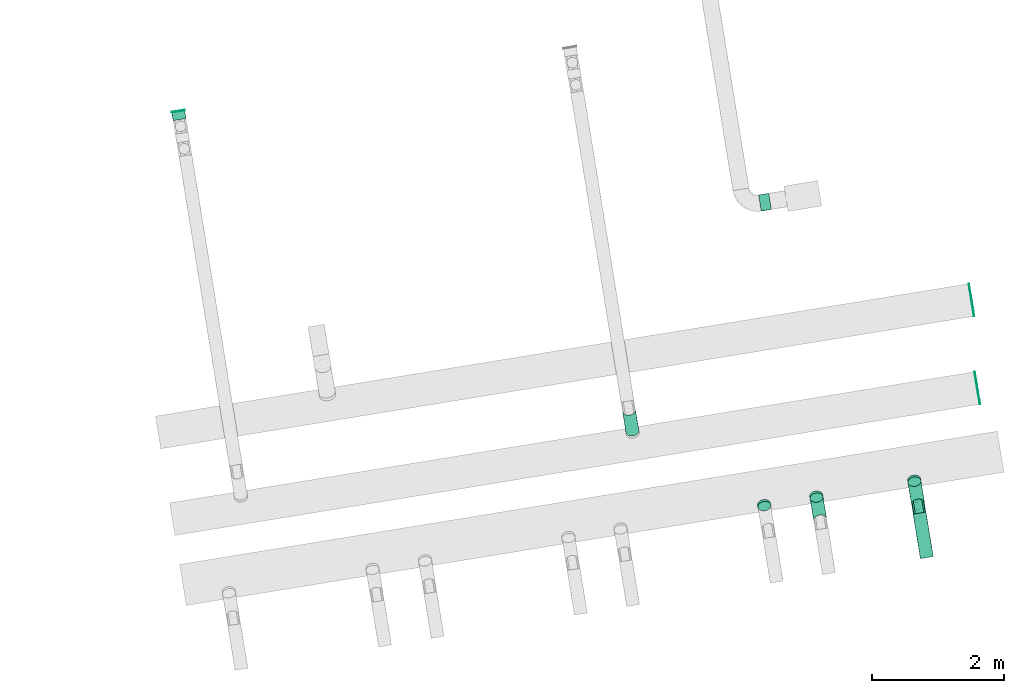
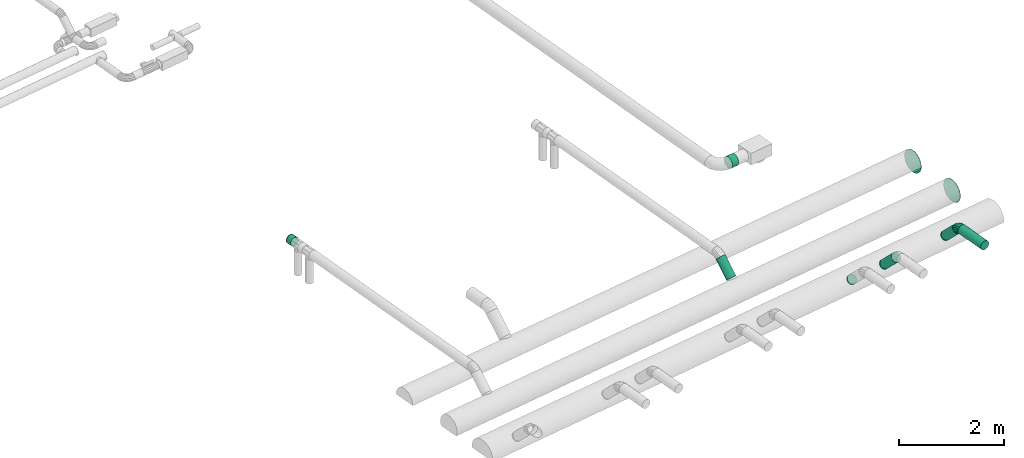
# One storey, part 5 of 19: 7 flow fittings, 6 flow segments.
"""IFC2X3 building model written with IfcOpenShell, lengths in millimetres."""

from ifc_helpers import new_model, entity, si_unit, converted_unit, derived_unit, direction, frame, frame_2d, origin, origin_with_axes, origin_2d_with_axis, place, context, subcontext, project, spatial, circle, extrude, faceted_brep, source, transform, mapped, material, type_object, element, save


model = new_model("IFC2X3")

# Units and contexts
model_context = context("Model", 3, precision=0.01, world=origin(), true_north=direction((6.12323399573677e-17, 1.0)))
plan_context = context("Plan", 3, precision=1e-05, world=origin_with_axes())
body_context = subcontext(model_context, "Body", "Model", "MODEL_VIEW")
ifc_project = project(units=[converted_unit("PLANEANGLEUNIT", "DEGREE", entity("IfcPositiveLengthMeasure", 0.0174532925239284), si_unit("PLANEANGLEUNIT", "RADIAN"), dimensions=[0, 0, 0, 0, 0, 0, 0]), si_unit("AREAUNIT", "SQUARE_METRE"), si_unit("LENGTHUNIT", "METRE", prefix="MILLI"), si_unit("MASSUNIT", "GRAM", prefix="KILO"), si_unit("POWERUNIT", "WATT"), si_unit("PRESSUREUNIT", "PASCAL", prefix="KILO"), si_unit("FORCEUNIT", "NEWTON", prefix="KILO"), si_unit("ELECTRICVOLTAGEUNIT", "VOLT"), si_unit("ELECTRICCURRENTUNIT", "AMPERE"), si_unit("THERMODYNAMICTEMPERATUREUNIT", "DEGREE_CELSIUS"), si_unit("TIMEUNIT", "SECOND"), si_unit("VOLUMEUNIT", "CUBIC_METRE"), derived_unit("LINEARVELOCITYUNIT", [(si_unit("LENGTHUNIT", "METRE"), 1), (si_unit("TIMEUNIT", "SECOND"), -1)]), derived_unit("VOLUMETRICFLOWRATEUNIT", [(si_unit("VOLUMEUNIT", "CUBIC_METRE"), 1), (si_unit("TIMEUNIT", "SECOND"), -1)]), derived_unit("THERMALTRANSMITTANCEUNIT", [(si_unit("POWERUNIT", "WATT"), 1), (si_unit("THERMODYNAMICTEMPERATUREUNIT", "KELVIN"), -1), (si_unit("AREAUNIT", "SQUARE_METRE"), -1)]), derived_unit("SOUNDPRESSUREUNIT", [(si_unit("PRESSUREUNIT", "PASCAL"), 1)])], contexts=[model_context, plan_context])

# Site, building, storey
site_placement = place(None, frame((5.09380697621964e-08, 5.80416781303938e-08, 0.0), z_axis=(0.0, 0.0, 1.0), x_axis=(-0.160806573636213, 0.986985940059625, 0.0)))
site = spatial("IfcSite", under=ifc_project, at=site_placement, Name="Default", CompositionType="ELEMENT")
building_placement = place(site_placement, frame((0.0, 0.0, 0.0), z_axis=(0.0, 0.0, 1.0), x_axis=(1.0, -2.77555756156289e-17, 0.0)))
building = spatial("IfcBuilding", under=site, at=building_placement, Name="Bygning (endres i Project Information)", CompositionType="ELEMENT")
storey_placement = place(building_placement, frame((0.0, 0.0, 51360.0000000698), z_axis=(0.0, 0.0, 1.0), x_axis=(1.0, -2.77555756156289e-17, 0.0)))
storey = spatial("IfcBuildingStorey", under=building, at=storey_placement, Name="H01-Nivå D+0,36", CompositionType="ELEMENT", Elevation=51360.0000000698)

# Flow fittings
ifc_material_1 = material(Name="DF_Material1")
duct_fitting_type_1 = type_object("IfcDuctFittingType", Name="Lindab ESU:ESU", PredefinedType="NOTDEFINED", material=ifc_material_1)
shared_shape_1 = source(origin(), body_context, "Body", "SweptSolid", [
    extrude(circle(Radius=100.000000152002, at=frame_2d((-1.7386373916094e-13, -5.59979039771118e-13), x_axis=(1.0, 0.0))), frame((0.0, 0.0, 0.0), z_axis=(1.0, 0.0, 0.0), x_axis=(0.0, 1.0, 0.0)), (0.0, 0.0, 1.0), 10.0000000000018),
])
flow_fitting_1_placement = place(storey_placement, frame((1000575.1737039, -385132.73177938, 3820.00000015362), z_axis=(0.0, 0.0, 1.0), x_axis=(1.0, -2.77555756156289e-17, 0.0)))
element("IfcFlowFitting", 1, at=flow_fitting_1_placement, inside=storey, type_object=duct_fitting_type_1, material=ifc_material_1, Name="Lindab ESU:ESU", ObjectType="Lindab ESU:ESU", context=body_context, shape_type="MappedRepresentation", body=[
    mapped(shared_shape_1, transform((0.0, 0.0, 0.0), scale=1.0)),
])
ifc_material_2 = material(Name="3601.001 Avtrekk")
duct_fitting_type_2 = type_object("IfcDuctFittingType", Name="magicirc_elbow_full_radius_NOR:magicirc_elbow_full_radius_NOR", PredefinedType="NOTDEFINED", material=ifc_material_2)
shared_shape_2 = source(origin(), body_context, "Body", "Brep", [
    faceted_brep([(-24.3156158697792, -94.2355841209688, 0.0), (-25.4921544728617, -88.3207251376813, 34.2020143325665), (-82.8427124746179, -93.969262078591, 34.2020143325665), (-82.8427124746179, -100.0, 0.0), (-28.8798623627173, -71.2895674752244, 64.2787609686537), (-82.8427124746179, -76.604444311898, 64.2787609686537), (-34.0701319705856, -45.1963201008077, 86.6025403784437), (-82.8427124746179, -50.0, 86.6025403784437), (-40.4369401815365, -13.1882137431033, 98.4807753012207), (-82.842712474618, -17.3648177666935, 98.4807753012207), (-47.2123559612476, 20.8741015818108, 98.4807753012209), (-82.842712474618, 17.3648177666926, 98.4807753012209), (-53.5791641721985, 52.8822079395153, 86.6025403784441), (-82.8427124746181, 50.0, 86.6025403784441), (-58.7694337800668, 78.9754553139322, 64.2787609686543), (-82.8427124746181, 76.6044443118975, 64.2787609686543), (-62.1571416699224, 96.0066129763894, 34.2020143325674), (-82.8427124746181, 93.9692620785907, 34.2020143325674), (-63.3336802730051, 101.921471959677, 0.0), (-82.8427124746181, 100.0, 0.0), (-62.1571416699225, 96.0066129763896, -34.2020143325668), (-82.8427124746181, 93.9692620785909, -34.2020143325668), (-58.7694337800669, 78.9754553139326, -64.2787609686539), (-82.8427124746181, 76.6044443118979, -64.2787609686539), (-53.5791641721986, 52.8822079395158, -86.6025403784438), (-82.8427124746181, 50.0, -86.6025403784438), (-47.2123559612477, 20.8741015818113, -98.4807753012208), (-82.842712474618, 17.3648177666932, -98.4807753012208), (-40.4369401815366, -13.1882137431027, -98.4807753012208), (-82.842712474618, -17.3648177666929, -98.4807753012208), (-34.0701319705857, -45.1963201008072, -86.6025403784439), (-82.8427124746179, -50.0, -86.6025403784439), (-28.8798623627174, -71.289567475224, -64.2787609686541), (-82.8427124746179, -76.6044443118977, -64.2787609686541), (-25.4921544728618, -88.3207251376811, -34.2020143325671), (-82.8427124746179, -93.9692620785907, -34.2020143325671), (31.9623172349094, -77.1638597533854, 0.0), (29.6544537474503, -71.5921844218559, 34.2020143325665), (23.0092256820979, -55.54918470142, 64.2787609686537), (12.828145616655, -30.9698831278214, 86.6025403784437), (0.3392020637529, -0.818906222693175, 98.4807753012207), (-12.9512540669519, 31.267093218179, 98.4807753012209), (-25.440197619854, 61.4180701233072, 86.6025403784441), (-35.621277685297, 85.997371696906, 64.2787609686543), (-42.2665057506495, 102.040371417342, 34.2020143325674), (-44.5743692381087, 107.612046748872, 0.0), (-42.2665057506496, 102.040371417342, -34.2020143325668), (-35.6212776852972, 85.9973716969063, -64.2787609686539), (-25.4401976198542, 61.4180701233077, -86.6025403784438), (-12.9512540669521, 31.2670932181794, -98.4807753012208), (0.339202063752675, -0.818906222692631, -98.4807753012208), (12.8281456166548, -30.9698831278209, -86.6025403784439), (23.0092256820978, -55.5491847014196, -64.2787609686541), (29.6544537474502, -71.5921844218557, -34.2020143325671), (83.8283574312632, -49.4408836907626, 0.0), (80.4778589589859, -44.4265083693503, 34.2020143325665), (70.8304831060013, -29.9881900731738, 64.2787609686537), (56.0498457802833, -7.86740307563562, 86.6025403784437), (37.9187099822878, 19.2677592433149, 98.4807753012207), (18.6239582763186, 48.1443958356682, 98.4807753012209), (0.492822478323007, 75.2795581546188, 86.6025403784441), (-14.2878148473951, 97.4003451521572, 64.2787609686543), (-23.9351907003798, 111.838663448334, 34.2020143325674), (-27.2856891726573, 116.853038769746, 0.0), (-23.9351907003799, 111.838663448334, -34.2020143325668), (-14.2878148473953, 97.4003451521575, -64.2787609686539), (0.492822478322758, 75.2795581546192, -86.6025403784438), (18.6239582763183, 48.1443958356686, -98.4807753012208), (37.9187099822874, 19.2677592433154, -98.4807753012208), (56.049845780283, -7.86740307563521, -86.6025403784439), (70.8304831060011, -29.9881900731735, -64.2787609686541), (80.4778589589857, -44.4265083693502, -34.2020143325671), (129.289321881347, -12.1320343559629, 0.0), (125.02494620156, -7.86765867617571, 34.2020143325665), (112.746165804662, 4.41112172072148, 64.2787609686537), (93.9339828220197, 23.2233047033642, 86.6025403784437), (70.8574241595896, 46.2998633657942, 98.4807753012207), (46.299863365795, 70.8574241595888, 98.4807753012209), (23.2233047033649, 93.9339828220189, 86.6025403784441), (4.41112172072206, 112.746165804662, 64.2787609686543), (-7.86765867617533, 125.024946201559, 34.2020143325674), (-12.1320343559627, 129.289321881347, 0.0), (-7.86765867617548, 125.024946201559, -34.2020143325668), (4.41112172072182, 112.746165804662, -64.2787609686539), (23.2233047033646, 93.9339828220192, -86.6025403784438), (46.2998633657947, 70.8574241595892, -98.4807753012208), (70.8574241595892, 46.2998633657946, -98.4807753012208), (93.9339828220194, 23.2233047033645, -86.6025403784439), (112.746165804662, 4.41112172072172, -64.2787609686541), (125.02494620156, -7.86765867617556, -34.2020143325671)], [[[0, 1, 2, 3]], [[1, 4, 5, 2]], [[4, 6, 7, 5]], [[6, 8, 9, 7]], [[8, 10, 11, 9]], [[10, 12, 13, 11]], [[12, 14, 15, 13]], [[14, 16, 17, 15]], [[16, 18, 19, 17]], [[18, 20, 21, 19]], [[20, 22, 23, 21]], [[22, 24, 25, 23]], [[24, 26, 27, 25]], [[26, 28, 29, 27]], [[28, 30, 31, 29]], [[30, 32, 33, 31]], [[32, 34, 35, 33]], [[34, 0, 3, 35]], [[36, 37, 1, 0]], [[37, 38, 4, 1]], [[38, 39, 6, 4]], [[39, 40, 8, 6]], [[40, 41, 10, 8]], [[41, 42, 12, 10]], [[42, 43, 14, 12]], [[43, 44, 16, 14]], [[44, 45, 18, 16]], [[45, 46, 20, 18]], [[46, 47, 22, 20]], [[47, 48, 24, 22]], [[48, 49, 26, 24]], [[49, 50, 28, 26]], [[50, 51, 30, 28]], [[51, 52, 32, 30]], [[52, 53, 34, 32]], [[53, 36, 0, 34]], [[54, 55, 37, 36]], [[55, 56, 38, 37]], [[56, 57, 39, 38]], [[57, 58, 40, 39]], [[58, 59, 41, 40]], [[59, 60, 42, 41]], [[60, 61, 43, 42]], [[61, 62, 44, 43]], [[62, 63, 45, 44]], [[63, 64, 46, 45]], [[64, 65, 47, 46]], [[65, 66, 48, 47]], [[66, 67, 49, 48]], [[67, 68, 50, 49]], [[68, 69, 51, 50]], [[69, 70, 52, 51]], [[70, 71, 53, 52]], [[71, 54, 36, 53]], [[72, 73, 55, 54]], [[73, 74, 56, 55]], [[74, 75, 57, 56]], [[75, 76, 58, 57]], [[76, 77, 59, 58]], [[77, 78, 60, 59]], [[78, 79, 61, 60]], [[79, 80, 62, 61]], [[80, 81, 63, 62]], [[81, 82, 64, 63]], [[82, 83, 65, 64]], [[83, 84, 66, 65]], [[84, 85, 67, 66]], [[85, 86, 68, 67]], [[86, 87, 69, 68]], [[87, 88, 70, 69]], [[88, 89, 71, 70]], [[89, 72, 54, 71]], [[3, 2, 5, 7, 9, 11, 13, 15, 17, 19, 21, 23, 25, 27, 29, 31, 33, 35]], [[89, 88, 87, 86, 85, 84, 83, 82, 81, 80, 79, 78, 77, 76, 75, 74, 73, 72]]]),
])
flow_fitting_2_placement = place(storey_placement, frame((992862.921338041, -395219.987431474, 3800.0), z_axis=(2.77555756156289e-17, 1.0, 0.0), x_axis=(1.0, -2.77555756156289e-17, 0.0)))
element("IfcFlowFitting", 2, at=flow_fitting_2_placement, inside=storey, type_object=duct_fitting_type_2, material=ifc_material_2, Name="magicirc_elbow_full_radius_NOR:magicirc_elbow_full_radius_NOR", ObjectType="magicirc_elbow_full_radius_NOR:magicirc_elbow_full_radius_NOR", context=body_context, shape_type="MappedRepresentation", body=[
    mapped(shared_shape_2, transform((0.0, 0.0, 0.0), scale=1.0)),
])
ifc_material_3 = material(Name="3601.001 Tilluft")
duct_fitting_type_3 = type_object("IfcDuctFittingType", Name="magicirc_tapoutlet_001:magicirc_tapoutlet_001", PredefinedType="NOTDEFINED", material=ifc_material_3)
shared_shape_3 = source(origin(), body_context, "Body", "Brep", [
    faceted_brep([(-22.3909057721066, -25.8819045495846, -96.5925827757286), (-22.3909057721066, -50.0000000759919, -86.6025405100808), (-22.3909057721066, -70.7106782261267, -70.7106782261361), (-22.3909057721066, -86.6025405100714, -50.0000000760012), (-22.3909057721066, -96.5925827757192, -25.8819045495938), (-22.3909057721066, -100.000000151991, 0.0), (-22.3909057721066, -96.5925827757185, 25.8819045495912), (-22.3909057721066, -86.6025405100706, 50.0000000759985), (-22.3909057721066, -70.7106782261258, 70.7106782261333), (-22.3909057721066, -50.0000000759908, 86.6025405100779), (-22.3909057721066, -25.8819045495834, 96.5925827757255), (-22.3909057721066, 0.0, 100.000000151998), (-22.3909057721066, 25.8819045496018, 96.5925827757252), (-22.3909057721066, 50.0000000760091, 86.6025405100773), (-22.3909057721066, 70.710678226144, 70.7106782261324), (-22.3909057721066, 86.6025405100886, 50.0000000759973), (-22.3909057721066, 96.5925827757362, 25.8819045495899), (-22.3909057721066, 100.00000015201, 0.0), (-22.3909057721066, 96.5925827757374, -25.8819045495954), (-22.3909057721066, 86.6025405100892, -50.0000000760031), (-22.3909057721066, 70.7106782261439, -70.7106782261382), (-22.3909057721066, 50.0000000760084, -86.6025405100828), (-22.3909057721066, 25.8819045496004, -96.5925827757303), (-22.3909057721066, 0.0, -100.000000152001), (0.0, -25.8819045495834, 96.5925827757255), (20.0, -25.8819045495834, 96.5925827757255), (20.0, 0.0, 100.000000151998), (0.0, 0.0, 100.000000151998), (0.0, -50.0000000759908, 86.6025405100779), (20.0, -50.0000000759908, 86.6025405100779), (0.0, -70.7106782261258, 70.7106782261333), (20.0, -70.7106782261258, 70.7106782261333), (0.0, -96.5925827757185, 25.8819045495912), (20.0, -96.5925827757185, 25.8819045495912), (20.0, -86.6025405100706, 50.0000000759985), (0.0, -86.6025405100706, 50.0000000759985), (0.0, -100.000000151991, 0.0), (20.0, -100.000000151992, 0.0), (0.0, -96.5925827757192, -25.8819045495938), (20.0, -96.5925827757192, -25.8819045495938), (0.0, -86.6025405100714, -50.0000000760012), (20.0, -86.6025405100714, -50.0000000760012), (0.0, -70.7106782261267, -70.7106782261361), (20.0, -70.7106782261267, -70.7106782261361), (0.0, 0.0, -100.000000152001), (20.0, 0.0, -100.000000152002), (20.0, -25.8819045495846, -96.5925827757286), (0.0, -25.8819045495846, -96.5925827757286), (20.0, -50.0000000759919, -86.6025405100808), (0.0, -50.0000000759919, -86.6025405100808), (0.0, 25.8819045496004, -96.5925827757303), (20.0, 25.8819045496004, -96.5925827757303), (0.0, 50.0000000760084, -86.6025405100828), (20.0, 50.0000000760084, -86.6025405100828), (0.0, 70.7106782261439, -70.7106782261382), (20.0, 70.7106782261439, -70.7106782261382), (0.0, 96.5925827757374, -25.8819045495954), (20.0, 96.5925827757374, -25.8819045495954), (20.0, 86.6025405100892, -50.0000000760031), (0.0, 86.6025405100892, -50.0000000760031), (0.0, 100.00000015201, 0.0), (20.0, 100.000000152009, 0.0), (0.0, 96.5925827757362, 25.8819045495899), (20.0, 96.5925827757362, 25.8819045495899), (0.0, 86.6025405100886, 50.0000000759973), (20.0, 86.6025405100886, 50.0000000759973), (0.0, 70.710678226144, 70.7106782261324), (20.0, 70.710678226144, 70.7106782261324), (0.0, 25.8819045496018, 96.5925827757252), (20.0, 25.8819045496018, 96.5925827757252), (20.0, 50.0000000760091, 86.6025405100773), (0.0, 50.0000000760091, 86.6025405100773)], [[[0, 1, 2, 3, 4, 5, 6, 7, 8, 9, 10, 11, 12, 13, 14, 15, 16, 17, 18, 19, 20, 21, 22, 23]], [[24, 25, 26, 27, 11, 10]], [[28, 29, 25, 24, 10, 9]], [[8, 30, 31, 29, 28, 9]], [[32, 33, 34, 35, 7, 6]], [[36, 37, 33, 32, 6, 5]], [[7, 35, 34, 31, 30, 8]], [[38, 39, 37, 36, 5, 4]], [[40, 41, 39, 38, 4, 3]], [[2, 42, 43, 41, 40, 3]], [[0, 23, 44, 45, 46, 47]], [[1, 0, 47, 46, 48, 49]], [[1, 49, 48, 43, 42, 2]], [[50, 51, 45, 44, 23, 22]], [[52, 53, 51, 50, 22, 21]], [[20, 54, 55, 53, 52, 21]], [[56, 57, 58, 59, 19, 18]], [[60, 61, 57, 56, 18, 17]], [[19, 59, 58, 55, 54, 20]], [[62, 63, 61, 60, 17, 16]], [[64, 65, 63, 62, 16, 15]], [[14, 66, 67, 65, 64, 15]], [[68, 69, 70, 71, 13, 12]], [[27, 26, 69, 68, 12, 11]], [[13, 71, 70, 67, 66, 14]], [[45, 51, 53, 55, 58, 57, 61, 63, 65, 67, 70, 69, 26, 25, 29, 31, 34, 33, 37, 39, 41, 43, 48, 46]]]),
    faceted_brep([(20.0, 0.0, -100.000000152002), (20.0, 25.8819045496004, -96.5925827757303), (20.0, 50.0000000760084, -86.6025405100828), (20.0, 70.710678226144, -70.7106782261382), (20.0, 86.6025405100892, -50.0000000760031), (20.0, 96.5925827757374, -25.8819045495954), (20.0, 100.000000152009, 0.0), (20.0, 96.5925827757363, 25.8819045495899), (20.0, 86.6025405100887, 50.0000000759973), (20.0, 70.710678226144, 70.7106782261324), (20.0, 50.0000000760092, 86.6025405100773), (20.0, 25.8819045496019, 96.5925827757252), (20.0, 0.0, 100.000000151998), (20.0, -25.8819045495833, 96.5925827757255), (20.0, -50.0000000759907, 86.6025405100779), (20.0, -70.7106782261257, 70.7106782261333), (20.0, -86.6025405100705, 50.0000000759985), (20.0, -96.5925827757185, 25.8819045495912), (20.0, -100.000000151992, 0.0), (20.0, -96.5925827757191, -25.8819045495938), (20.0, -86.6025405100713, -50.0000000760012), (20.0, -70.7106782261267, -70.7106782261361), (20.0, -50.0000000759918, -86.6025405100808), (20.0, -25.8819045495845, -96.5925827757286), (0.0, 0.0, 100.000000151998), (-22.3909057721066, 0.0, 100.000000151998), (-22.3909057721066, -25.8819045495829, 96.5925827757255), (0.0, -25.8819045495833, 96.5925827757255), (-22.3909057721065, -50.0000000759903, 86.6025405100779), (0.0, -50.0000000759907, 86.6025405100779), (0.0, -70.7106782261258, 70.7106782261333), (-22.3909057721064, -70.7106782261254, 70.7106782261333), (0.0, -86.6025405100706, 50.0000000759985), (-22.3909057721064, -86.6025405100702, 50.0000000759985), (-22.3909057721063, -96.5925827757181, 25.8819045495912), (0.0, -96.5925827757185, 25.8819045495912), (-22.3909057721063, -100.000000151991, 0.0), (0.0, -100.000000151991, 0.0), (-22.3909057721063, -96.5925827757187, -25.8819045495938), (0.0, -96.5925827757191, -25.8819045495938), (-22.3909057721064, -86.602540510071, -50.0000000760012), (0.0, -86.6025405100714, -50.0000000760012), (0.0, -70.7106782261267, -70.7106782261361), (-22.3909057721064, -70.7106782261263, -70.7106782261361), (0.0, -25.8819045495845, -96.5925827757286), (-22.3909057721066, -25.8819045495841, -96.5925827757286), (-22.3909057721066, 0.0, -100.000000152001), (0.0, 0.0, -100.000000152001), (0.0, -50.0000000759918, -86.6025405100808), (-22.3909057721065, -50.0000000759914, -86.6025405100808), (-22.3909057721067, 25.8819045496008, -96.5925827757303), (0.0, 25.8819045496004, -96.5925827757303), (-22.3909057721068, 50.0000000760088, -86.6025405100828), (0.0, 50.0000000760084, -86.6025405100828), (0.0, 70.7106782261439, -70.7106782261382), (-22.3909057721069, 70.7106782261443, -70.7106782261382), (0.0, 86.6025405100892, -50.0000000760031), (-22.3909057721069, 86.6025405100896, -50.0000000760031), (-22.390905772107, 96.5925827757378, -25.8819045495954), (0.0, 96.5925827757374, -25.8819045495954), (-22.390905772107, 100.00000015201, 0.0), (0.0, 100.00000015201, 0.0), (-22.390905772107, 96.5925827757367, 25.8819045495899), (0.0, 96.5925827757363, 25.8819045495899), (-22.3909057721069, 86.602540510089, 50.0000000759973), (0.0, 86.6025405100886, 50.0000000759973), (0.0, 70.710678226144, 70.7106782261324), (-22.3909057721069, 70.7106782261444, 70.7106782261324), (0.0, 50.0000000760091, 86.6025405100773), (-22.3909057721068, 50.0000000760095, 86.6025405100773), (-22.3909057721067, 25.8819045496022, 96.5925827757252), (0.0, 25.8819045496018, 96.5925827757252)], [[[0, 1, 2, 3, 4, 5, 6, 7, 8, 9, 10, 11, 12, 13, 14, 15, 16, 17, 18, 19, 20, 21, 22, 23]], [[13, 12, 24, 25, 26, 27]], [[14, 13, 27, 26, 28, 29]], [[30, 15, 14, 29, 28, 31]], [[17, 16, 32, 33, 34, 35]], [[18, 17, 35, 34, 36, 37]], [[32, 16, 15, 30, 31, 33]], [[19, 18, 37, 36, 38, 39]], [[20, 19, 39, 38, 40, 41]], [[42, 21, 20, 41, 40, 43]], [[44, 45, 46, 47, 0, 23]], [[48, 49, 45, 44, 23, 22]], [[48, 22, 21, 42, 43, 49]], [[1, 0, 47, 46, 50, 51]], [[2, 1, 51, 50, 52, 53]], [[54, 3, 2, 53, 52, 55]], [[5, 4, 56, 57, 58, 59]], [[6, 5, 59, 58, 60, 61]], [[56, 4, 3, 54, 55, 57]], [[7, 6, 61, 60, 62, 63]], [[8, 7, 63, 62, 64, 65]], [[66, 9, 8, 65, 64, 67]], [[11, 10, 68, 69, 70, 71]], [[12, 11, 71, 70, 25, 24]], [[68, 10, 9, 66, 67, 69]], [[45, 49, 43, 40, 38, 36, 34, 33, 31, 28, 26, 25, 70, 69, 67, 64, 62, 60, 58, 57, 55, 52, 50, 46]]]),
    faceted_brep([(-22.3909057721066, -25.8819045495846, -96.5925827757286), (-22.3909057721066, -50.0000000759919, -86.6025405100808), (-22.3909057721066, -70.7106782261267, -70.7106782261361), (-22.3909057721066, -86.6025405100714, -50.0000000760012), (-22.3909057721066, -96.5925827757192, -25.8819045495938), (-22.3909057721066, -100.000000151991, 0.0), (-22.3909057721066, -96.5925827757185, 25.8819045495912), (-22.3909057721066, -86.6025405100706, 50.0000000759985), (-22.3909057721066, -70.7106782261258, 70.7106782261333), (-22.3909057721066, -50.0000000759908, 86.6025405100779), (-22.3909057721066, -25.8819045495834, 96.5925827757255), (-22.3909057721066, 0.0, 100.000000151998), (-22.3909057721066, 25.8819045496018, 96.5925827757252), (-22.3909057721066, 50.0000000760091, 86.6025405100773), (-22.3909057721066, 70.710678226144, 70.7106782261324), (-22.3909057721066, 86.6025405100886, 50.0000000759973), (-22.3909057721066, 96.5925827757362, 25.8819045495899), (-22.3909057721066, 100.00000015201, 0.0), (-22.3909057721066, 96.5925827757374, -25.8819045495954), (-22.3909057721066, 86.6025405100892, -50.0000000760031), (-22.3909057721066, 70.7106782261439, -70.7106782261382), (-22.3909057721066, 50.0000000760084, -86.6025405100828), (-22.3909057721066, 25.8819045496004, -96.5925827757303), (-22.3909057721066, 0.0, -100.000000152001), (0.0, -25.8819045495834, 96.5925827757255), (20.0, -25.8819045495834, 96.5925827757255), (20.0, 0.0, 100.000000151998), (0.0, 0.0, 100.000000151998), (0.0, -50.0000000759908, 86.6025405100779), (20.0, -50.0000000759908, 86.6025405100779), (0.0, -70.7106782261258, 70.7106782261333), (20.0, -70.7106782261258, 70.7106782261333), (0.0, -96.5925827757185, 25.8819045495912), (20.0, -96.5925827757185, 25.8819045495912), (20.0, -86.6025405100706, 50.0000000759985), (0.0, -86.6025405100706, 50.0000000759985), (0.0, -100.000000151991, 0.0), (20.0, -100.000000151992, 0.0), (0.0, -96.5925827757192, -25.8819045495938), (20.0, -96.5925827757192, -25.8819045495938), (0.0, -86.6025405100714, -50.0000000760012), (20.0, -86.6025405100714, -50.0000000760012), (0.0, -70.7106782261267, -70.7106782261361), (20.0, -70.7106782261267, -70.7106782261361), (0.0, 0.0, -100.000000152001), (20.0, 0.0, -100.000000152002), (20.0, -25.8819045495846, -96.5925827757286), (0.0, -25.8819045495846, -96.5925827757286), (20.0, -50.0000000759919, -86.6025405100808), (0.0, -50.0000000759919, -86.6025405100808), (0.0, 25.8819045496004, -96.5925827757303), (20.0, 25.8819045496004, -96.5925827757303), (0.0, 50.0000000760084, -86.6025405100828), (20.0, 50.0000000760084, -86.6025405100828), (0.0, 70.7106782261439, -70.7106782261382), (20.0, 70.7106782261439, -70.7106782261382), (0.0, 96.5925827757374, -25.8819045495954), (20.0, 96.5925827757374, -25.8819045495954), (20.0, 86.6025405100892, -50.0000000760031), (0.0, 86.6025405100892, -50.0000000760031), (0.0, 100.00000015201, 0.0), (20.0, 100.000000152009, 0.0), (0.0, 96.5925827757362, 25.8819045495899), (20.0, 96.5925827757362, 25.8819045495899), (0.0, 86.6025405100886, 50.0000000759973), (20.0, 86.6025405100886, 50.0000000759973), (0.0, 70.710678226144, 70.7106782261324), (20.0, 70.710678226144, 70.7106782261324), (0.0, 25.8819045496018, 96.5925827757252), (20.0, 25.8819045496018, 96.5925827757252), (20.0, 50.0000000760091, 86.6025405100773), (0.0, 50.0000000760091, 86.6025405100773)], [[[0, 1, 2, 3, 4, 5, 6, 7, 8, 9, 10, 11, 12, 13, 14, 15, 16, 17, 18, 19, 20, 21, 22, 23]], [[24, 25, 26, 27, 11, 10]], [[28, 29, 25, 24, 10, 9]], [[8, 30, 31, 29, 28, 9]], [[32, 33, 34, 35, 7, 6]], [[36, 37, 33, 32, 6, 5]], [[7, 35, 34, 31, 30, 8]], [[38, 39, 37, 36, 5, 4]], [[40, 41, 39, 38, 4, 3]], [[2, 42, 43, 41, 40, 3]], [[0, 23, 44, 45, 46, 47]], [[1, 0, 47, 46, 48, 49]], [[1, 49, 48, 43, 42, 2]], [[50, 51, 45, 44, 23, 22]], [[52, 53, 51, 50, 22, 21]], [[20, 54, 55, 53, 52, 21]], [[56, 57, 58, 59, 19, 18]], [[60, 61, 57, 56, 18, 17]], [[19, 59, 58, 55, 54, 20]], [[62, 63, 61, 60, 17, 16]], [[64, 65, 63, 62, 16, 15]], [[14, 66, 67, 65, 64, 15]], [[68, 69, 70, 71, 13, 12]], [[27, 26, 69, 68, 12, 11]], [[13, 71, 70, 67, 66, 14]], [[45, 51, 53, 55, 58, 57, 61, 63, 65, 67, 70, 69, 26, 25, 29, 31, 34, 33, 37, 39, 41, 43, 48, 46]]]),
])
flow_fitting_3_placement = place(storey_placement, frame((993275.167476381, -392919.987431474, 3387.75386166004), z_axis=(0.707106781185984, -1.26830970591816e-06, 0.707106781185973), x_axis=(-0.707106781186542, 0.0, 0.707106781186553)))
element("IfcFlowFitting", 3, at=flow_fitting_3_placement, inside=storey, type_object=duct_fitting_type_3, material=ifc_material_3, Name="magicirc_tapoutlet_001:magicirc_tapoutlet_001", ObjectType="magicirc_tapoutlet_001:magicirc_tapoutlet_001", context=body_context, shape_type="MappedRepresentation", body=[
    mapped(shared_shape_3, transform((0.0, 0.0, 0.0), scale=1.0)),
])
duct_fitting_type_4 = type_object("IfcDuctFittingType", Name="magicirc_tapoutlet_001:magicirc_tapoutlet_001", PredefinedType="NOTDEFINED", material=ifc_material_3)
flow_fitting_4_placement = place(storey_placement, frame((993275.167835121, -393719.987431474, 3387.75350292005), z_axis=(0.707106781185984, -1.26830970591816e-06, 0.707106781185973), x_axis=(-0.707106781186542, 0.0, 0.707106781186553)))
element("IfcFlowFitting", 4, at=flow_fitting_4_placement, inside=storey, type_object=duct_fitting_type_4, material=ifc_material_3, Name="magicirc_tapoutlet_001:magicirc_tapoutlet_001", ObjectType="magicirc_tapoutlet_001:magicirc_tapoutlet_001", context=body_context, shape_type="MappedRepresentation", body=[
    mapped(shared_shape_3, transform((0.0, 0.0, 0.0), scale=1.0)),
])
duct_fitting_type_5 = type_object("IfcDuctFittingType", Name="magicirc_tapoutlet_001:magicirc_tapoutlet_001", PredefinedType="NOTDEFINED", material=ifc_material_3)
flow_fitting_5_placement = place(storey_placement, frame((993275.16850776, -395219.987431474, 3387.7528302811), z_axis=(0.707106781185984, -1.26830987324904e-06, 0.707106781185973), x_axis=(-0.707106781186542, 0.0, 0.707106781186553)))
element("IfcFlowFitting", 5, at=flow_fitting_5_placement, inside=storey, type_object=duct_fitting_type_5, material=ifc_material_3, Name="magicirc_tapoutlet_001:magicirc_tapoutlet_001", ObjectType="magicirc_tapoutlet_001:magicirc_tapoutlet_001", context=body_context, shape_type="MappedRepresentation", body=[
    mapped(shared_shape_3, transform((0.0, 0.0, 0.0), scale=1.0)),
])
duct_fitting_type_6 = type_object("IfcDuctFittingType", Name="Lindab NPU:NPU", PredefinedType="NOTDEFINED", material=ifc_material_1)
shared_shape_4 = source(origin(), body_context, "Body", "SweptSolid", [
    extrude(circle(Radius=250.00000038, at=frame_2d((0.0, -1.18104226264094e-12), x_axis=(1.0, 0.0))), frame((0.0, 0.0, 0.0), z_axis=(1.0, 0.0, 0.0), x_axis=(0.0, 1.0, 0.0)), (0.0, 0.0, 1.0), 7.00000000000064),
])
for number, where, z_axis, x_axis in (
    (6, (995833.836545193, -396516.835940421, 3150.00000038), (1.0, -2.77555756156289e-17, 0.0), (2.77555756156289e-17, 1.0, 0.0)),
    (7, (994506.021461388, -396382.73177938, 3250.00000038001), (0.0, 0.0, 1.0), (-2.77555756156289e-17, -1.0, 0.0)),
):
    element("IfcFlowFitting", number, at=place(storey_placement, frame(where, z_axis=z_axis, x_axis=x_axis)), inside=storey, type_object=duct_fitting_type_6, material=ifc_material_1, Name="Lindab NPU:NPU", ObjectType="Lindab NPU:NPU", context=body_context, shape_type="MappedRepresentation", body=[
        mapped(shared_shape_4, transform((0.0, 0.0, 0.0), scale=1.0)),
    ])

# Flow segments
duct_segment_type = type_object("IfcDuctSegmentType", Name="Round Duct:Sirkulær kanal", PredefinedType="NOTDEFINED", material=ifc_material_3)
flow_segment_1_placement = place(storey_placement, frame((0.0, 0.0, 0.0), z_axis=(0.0, 0.0, 1.0), x_axis=(1.0, -2.77555756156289e-17, 0.0)))
element("IfcFlowSegment", 8, at=flow_segment_1_placement, inside=storey, type_object=duct_segment_type, Name="Round Duct:Sirkulær kanal", ObjectType="Round Duct:Sirkulær kanal", context=body_context, shape_type="SweptSolid", body=[
    extrude(circle(Radius=100.000000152, at=origin_2d_with_axis()), frame((992095.9462867, -395219.987431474, 3800.0), z_axis=(1.0, 0.0, 0.0), x_axis=(0.0, 1.0, 0.0)), (0.0, 0.0, 1.0), 684.132338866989),
])
flow_segment_2_placement = place(storey_placement, frame((0.0, 0.0, 0.0), z_axis=(0.0, 0.0, 1.0), x_axis=(1.0, -2.77555756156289e-17, 0.0)))
element("IfcFlowSegment", 9, at=flow_segment_2_placement, inside=storey, type_object=duct_segment_type, Name="Round Duct:Sirkulær kanal", ObjectType="Round Duct:Sirkulær kanal", context=body_context, shape_type="SweptSolid", body=[
    extrude(circle(Radius=100.000000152, at=frame_2d((0.0, -8.66293703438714e-12), x_axis=(1.0, 0.0))), frame((1000451.6737039, -385132.73177938, 3820.00000015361), z_axis=(1.0, 0.0, 0.0), x_axis=(0.0, -1.0, 0.0)), (0.0, 0.0, 1.0), 123.499999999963),
])
flow_segment_3_placement = place(storey_placement, frame((0.0, 0.0, 0.0), z_axis=(0.0, 0.0, 1.0), x_axis=(1.0, -2.77555756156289e-17, 0.0)))
element("IfcFlowSegment", 10, at=flow_segment_3_placement, inside=storey, type_object=duct_segment_type, Name="Round Duct:Sirkulær kanal", ObjectType="Round Duct:Sirkulær kanal", context=body_context, shape_type="SweptSolid", body=[
    extrude(circle(Radius=100.000000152, at=frame_2d((-1.09865983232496e-24, 6.12562152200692e-12), x_axis=(1.0, 0.0))), frame((994696.940292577, -391132.73177938, 3440.91883156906), z_axis=(0.707106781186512, 0.0, 0.707106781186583), x_axis=(0.0, 1.0, 0.0)), (0.0, 0.0, 1.0), 453.259017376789),
])
flow_segment_4_placement = place(storey_placement, frame((0.0, 0.0, 0.0), z_axis=(0.0, 0.0, 1.0), x_axis=(1.0, -2.77555756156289e-17, 0.0)))
element("IfcFlowSegment", 11, at=flow_segment_4_placement, inside=storey, type_object=duct_segment_type, Name="Round Duct:Sirkulær kanal", ObjectType="Round Duct:Sirkulær kanal", context=body_context, shape_type="SweptSolid", body=[
    extrude(circle(Radius=100.000000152, at=frame_2d((1.55383704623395e-17, -1.22512430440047e-11), x_axis=(1.0, 0.0))), frame((993261.025699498, -393719.987431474, 3401.89563854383), z_axis=(-0.707106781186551, 0.0, 0.707106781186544), x_axis=(-8.96830393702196e-07, -1.0, -8.9683039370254e-07)), (0.0, 0.0, 1.0), 480.161874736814),
])
flow_segment_5_placement = place(storey_placement, frame((0.0, 0.0, 0.0), z_axis=(0.0, 0.0, 1.0), x_axis=(1.0, -2.77555756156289e-17, 0.0)))
element("IfcFlowSegment", 12, at=flow_segment_5_placement, inside=storey, type_object=duct_segment_type, Name="Round Duct:Sirkulær kanal", ObjectType="Round Duct:Sirkulær kanal", context=body_context, shape_type="SweptSolid", body=[
    extrude(circle(Radius=100.000000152, at=frame_2d((7.76918625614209e-18, 6.12562152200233e-12), x_axis=(1.0, 0.0))), frame((992921.499981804, -395219.987431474, 3741.42135623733), z_axis=(0.707106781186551, 0.0, -0.707106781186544), x_axis=(-8.96830512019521e-07, -1.0, -8.96830512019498e-07)), (0.0, 0.0, 1.0), 480.162825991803),
])
flow_segment_6_placement = place(storey_placement, frame((0.0, 0.0, 0.0), z_axis=(0.0, 0.0, 1.0), x_axis=(1.0, -2.77555756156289e-17, 0.0)))
element("IfcFlowSegment", 13, at=flow_segment_6_placement, inside=storey, type_object=duct_segment_type, Name="Round Duct:Sirkulær kanal", ObjectType="Round Duct:Sirkulær kanal", context=body_context, shape_type="SweptSolid", body=[
    extrude(circle(Radius=125.00000019, at=origin_2d_with_axis()), frame((997795.043332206, -393746.28836624, 3350.0), z_axis=(0.0, 1.0, 0.0), x_axis=(-1.0, 0.0, 0.0)), (0.0, 0.0, 1.0), 155.119586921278),
])

save(model, "model.ifc")
